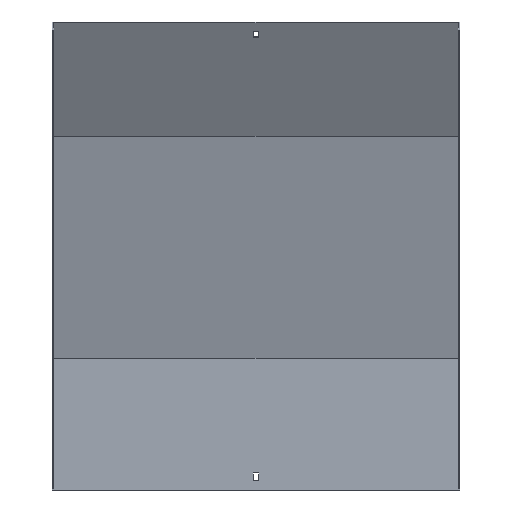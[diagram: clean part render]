
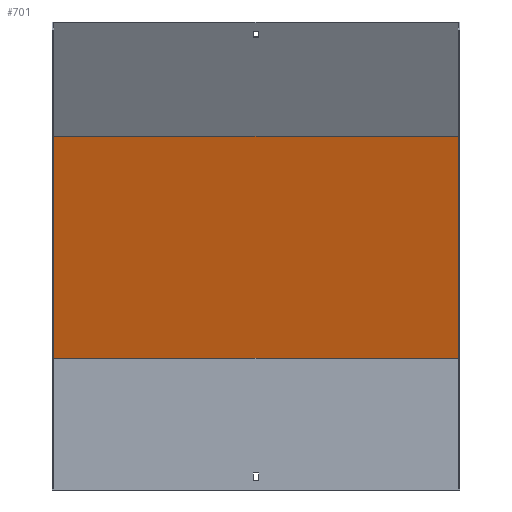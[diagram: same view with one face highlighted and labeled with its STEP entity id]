
A CAD part, front view. The second image highlights one B-rep face of the part: STEP entity #701.
In plain terms, the highlighted planar face has unit normal (0, -0.966, -0.259).
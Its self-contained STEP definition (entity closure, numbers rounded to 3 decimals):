
#20 = LINE ( 'NONE', #810, #845 ) ;
#69 = DIRECTION ( 'NONE',  ( 0., -0.259, 0.966 ) ) ;
#79 = CARTESIAN_POINT ( 'NONE',  ( 250., 57.87, 15.506 ) ) ;
#121 = ORIENTED_EDGE ( 'NONE', *, *, #238, .T. ) ;
#123 = VERTEX_POINT ( 'NONE', #716 ) ;
#138 = LINE ( 'NONE', #79, #712 ) ;
#202 = EDGE_LOOP ( 'NONE', ( #803, #526, #121, #612 ) ) ;
#234 = VERTEX_POINT ( 'NONE', #459 ) ;
#238 = EDGE_CURVE ( 'NONE', #606, #234, #138, .T. ) ;
#299 = CARTESIAN_POINT ( 'NONE',  ( -250., 18.5, 162.436 ) ) ;
#302 = PLANE ( 'NONE',  #446 ) ;
#389 = EDGE_CURVE ( 'NONE', #606, #599, #551, .T. ) ;
#394 = EDGE_CURVE ( 'NONE', #234, #123, #804, .T. ) ;
#412 = DIRECTION ( 'NONE',  ( 0., -0.259, 0.966 ) ) ;
#434 = VECTOR ( 'NONE', #807, 1000. ) ;
#445 = VECTOR ( 'NONE', #745, 1000. ) ;
#446 = AXIS2_PLACEMENT_3D ( 'NONE', #713, #723, #706 ) ;
#459 = CARTESIAN_POINT ( 'NONE',  ( 250., -54.971, 436.634 ) ) ;
#489 = CARTESIAN_POINT ( 'NONE',  ( 251.5, 18.5, 162.436 ) ) ;
#526 = ORIENTED_EDGE ( 'NONE', *, *, #389, .F. ) ;
#551 = LINE ( 'NONE', #489, #445 ) ;
#573 = EDGE_CURVE ( 'NONE', #599, #123, #20, .T. ) ;
#599 = VERTEX_POINT ( 'NONE', #299 ) ;
#606 = VERTEX_POINT ( 'NONE', #638 ) ;
#612 = ORIENTED_EDGE ( 'NONE', *, *, #394, .T. ) ;
#638 = CARTESIAN_POINT ( 'NONE',  ( 250., 18.5, 162.436 ) ) ;
#701 = ADVANCED_FACE ( 'NONE', ( #777 ), #302, .T. ) ;
#706 = DIRECTION ( 'NONE',  ( 0., 0.259, -0.966 ) ) ;
#712 = VECTOR ( 'NONE', #69, 1000. ) ;
#713 = CARTESIAN_POINT ( 'NONE',  ( 251.5, 17.87, 164.788 ) ) ;
#716 = CARTESIAN_POINT ( 'NONE',  ( -250., -54.971, 436.634 ) ) ;
#723 = DIRECTION ( 'NONE',  ( 0., -0.966, -0.259 ) ) ;
#745 = DIRECTION ( 'NONE',  ( -1., 0., 0. ) ) ;
#754 = CARTESIAN_POINT ( 'NONE',  ( 251.5, -54.971, 436.634 ) ) ;
#777 = FACE_OUTER_BOUND ( 'NONE', #202, .T. ) ;
#803 = ORIENTED_EDGE ( 'NONE', *, *, #573, .F. ) ;
#804 = LINE ( 'NONE', #754, #434 ) ;
#807 = DIRECTION ( 'NONE',  ( -1., 0., 0. ) ) ;
#810 = CARTESIAN_POINT ( 'NONE',  ( -250., 57.87, 15.506 ) ) ;
#845 = VECTOR ( 'NONE', #412, 1000. ) ;
